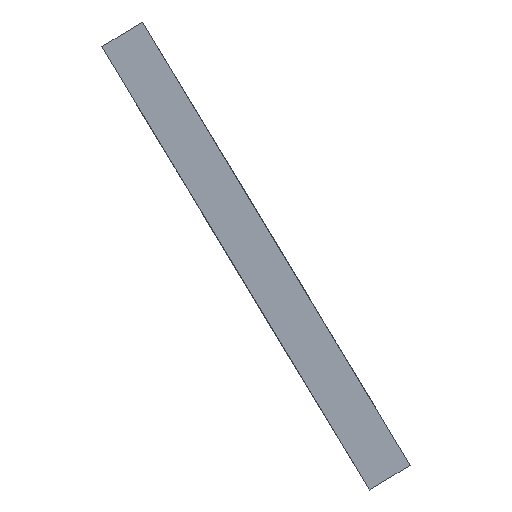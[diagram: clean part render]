
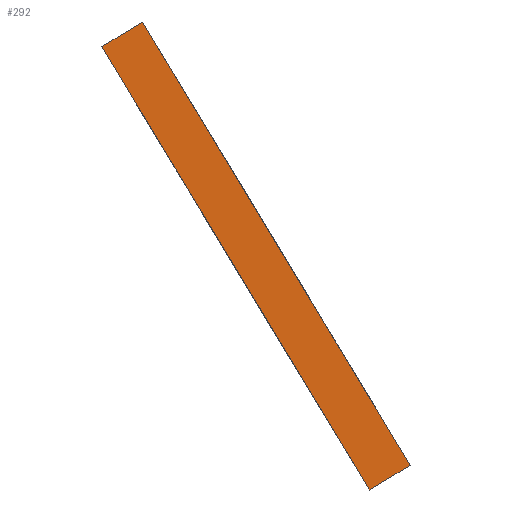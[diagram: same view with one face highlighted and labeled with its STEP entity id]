
A CAD part, left-side view. The second image highlights one B-rep face of the part: STEP entity #292.
In plain terms, the highlighted planar face has unit normal (-1, 0, 0).
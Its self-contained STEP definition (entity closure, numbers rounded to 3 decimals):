
#21 = EDGE_CURVE('',#22,#24,#26,.T.);
#22 = VERTEX_POINT('',#23);
#23 = CARTESIAN_POINT('',(-86.,-1000.505,1816.552));
#24 = VERTEX_POINT('',#25);
#25 = CARTESIAN_POINT('',(-86.,-1067.698,1705.264));
#26 = SURFACE_CURVE('',#27,(#31,#43),.PCURVE_S1.);
#27 = LINE('',#28,#29);
#28 = CARTESIAN_POINT('',(-86.,-1000.505,1816.552));
#29 = VECTOR('',#30,1.);
#30 = DIRECTION('',(0.,-0.517,-0.856));
#31 = PCURVE('',#32,#37);
#32 = PLANE('',#33);
#33 = AXIS2_PLACEMENT_3D('',#34,#35,#36);
#34 = CARTESIAN_POINT('',(-86.,-1000.505,1816.552));
#35 = DIRECTION('',(0.,-0.856,0.517));
#36 = DIRECTION('',(1.,0.,0.));
#37 = DEFINITIONAL_REPRESENTATION('',(#38),#42);
#38 = LINE('',#39,#40);
#39 = CARTESIAN_POINT('',(0.,0.));
#40 = VECTOR('',#41,1.);
#41 = DIRECTION('',(0.,-1.));
#42 = ( GEOMETRIC_REPRESENTATION_CONTEXT(2) 
PARAMETRIC_REPRESENTATION_CONTEXT() REPRESENTATION_CONTEXT('2D SPACE',''
  ) );
#43 = PCURVE('',#44,#49);
#44 = PLANE('',#45);
#45 = AXIS2_PLACEMENT_3D('',#46,#47,#48);
#46 = CARTESIAN_POINT('',(-86.,-1010.778,1822.754));
#47 = DIRECTION('',(1.,0.,0.));
#48 = DIRECTION('',(0.,0.856,-0.517));
#49 = DEFINITIONAL_REPRESENTATION('',(#50),#54);
#50 = LINE('',#51,#52);
#51 = CARTESIAN_POINT('',(12.,0.));
#52 = VECTOR('',#53,1.);
#53 = DIRECTION('',(0.,-1.));
#54 = ( GEOMETRIC_REPRESENTATION_CONTEXT(2) 
PARAMETRIC_REPRESENTATION_CONTEXT() REPRESENTATION_CONTEXT('2D SPACE',''
  ) );
#72 = PLANE('',#73);
#73 = AXIS2_PLACEMENT_3D('',#74,#75,#76);
#74 = CARTESIAN_POINT('',(0.,-1072.834,
    1708.365));
#75 = DIRECTION('',(-0.,-0.517,-0.856));
#76 = DIRECTION('',(0.,-0.856,0.517));
#126 = PLANE('',#127);
#127 = AXIS2_PLACEMENT_3D('',#128,#129,#130);
#128 = CARTESIAN_POINT('',(0.,-1005.641,
    1819.653));
#129 = DIRECTION('',(-0.,-0.517,-0.856));
#130 = DIRECTION('',(0.,-0.856,0.517));
#292 = ADVANCED_FACE('',(#293),#44,.F.);
#293 = FACE_BOUND('',#294,.F.);
#294 = EDGE_LOOP('',(#295,#325,#346,#347));
#295 = ORIENTED_EDGE('',*,*,#296,.T.);
#296 = EDGE_CURVE('',#297,#299,#301,.T.);
#297 = VERTEX_POINT('',#298);
#298 = CARTESIAN_POINT('',(-86.,-1010.778,1822.754)
  );
#299 = VERTEX_POINT('',#300);
#300 = CARTESIAN_POINT('',(-86.,-1077.971,1711.466)
  );
#301 = SURFACE_CURVE('',#302,(#306,#313),.PCURVE_S1.);
#302 = LINE('',#303,#304);
#303 = CARTESIAN_POINT('',(-86.,-1010.778,1822.754)
  );
#304 = VECTOR('',#305,1.);
#305 = DIRECTION('',(0.,-0.517,-0.856));
#306 = PCURVE('',#44,#307);
#307 = DEFINITIONAL_REPRESENTATION('',(#308),#312);
#308 = LINE('',#309,#310);
#309 = CARTESIAN_POINT('',(0.,0.));
#310 = VECTOR('',#311,1.);
#311 = DIRECTION('',(0.,-1.));
#312 = ( GEOMETRIC_REPRESENTATION_CONTEXT(2) 
PARAMETRIC_REPRESENTATION_CONTEXT() REPRESENTATION_CONTEXT('2D SPACE',''
  ) );
#313 = PCURVE('',#314,#319);
#314 = PLANE('',#315);
#315 = AXIS2_PLACEMENT_3D('',#316,#317,#318);
#316 = CARTESIAN_POINT('',(86.,-1010.778,1822.754));
#317 = DIRECTION('',(0.,0.856,-0.517));
#318 = DIRECTION('',(-1.,0.,0.));
#319 = DEFINITIONAL_REPRESENTATION('',(#320),#324);
#320 = LINE('',#321,#322);
#321 = CARTESIAN_POINT('',(172.,0.));
#322 = VECTOR('',#323,1.);
#323 = DIRECTION('',(-0.,-1.));
#324 = ( GEOMETRIC_REPRESENTATION_CONTEXT(2) 
PARAMETRIC_REPRESENTATION_CONTEXT() REPRESENTATION_CONTEXT('2D SPACE',''
  ) );
#325 = ORIENTED_EDGE('',*,*,#326,.T.);
#326 = EDGE_CURVE('',#299,#24,#327,.T.);
#327 = SURFACE_CURVE('',#328,(#332,#339),.PCURVE_S1.);
#328 = LINE('',#329,#330);
#329 = CARTESIAN_POINT('',(-86.,-1077.971,1711.466)
  );
#330 = VECTOR('',#331,1.);
#331 = DIRECTION('',(0.,0.856,-0.517));
#332 = PCURVE('',#44,#333);
#333 = DEFINITIONAL_REPRESENTATION('',(#334),#338);
#334 = LINE('',#335,#336);
#335 = CARTESIAN_POINT('',(0.,-130.));
#336 = VECTOR('',#337,1.);
#337 = DIRECTION('',(1.,0.));
#338 = ( GEOMETRIC_REPRESENTATION_CONTEXT(2) 
PARAMETRIC_REPRESENTATION_CONTEXT() REPRESENTATION_CONTEXT('2D SPACE',''
  ) );
#339 = PCURVE('',#72,#340);
#340 = DEFINITIONAL_REPRESENTATION('',(#341),#345);
#341 = LINE('',#342,#343);
#342 = CARTESIAN_POINT('',(6.,86.));
#343 = VECTOR('',#344,1.);
#344 = DIRECTION('',(-1.,0.));
#345 = ( GEOMETRIC_REPRESENTATION_CONTEXT(2) 
PARAMETRIC_REPRESENTATION_CONTEXT() REPRESENTATION_CONTEXT('2D SPACE',''
  ) );
#346 = ORIENTED_EDGE('',*,*,#21,.F.);
#347 = ORIENTED_EDGE('',*,*,#348,.F.);
#348 = EDGE_CURVE('',#297,#22,#349,.T.);
#349 = SURFACE_CURVE('',#350,(#354,#361),.PCURVE_S1.);
#350 = LINE('',#351,#352);
#351 = CARTESIAN_POINT('',(-86.,-1010.778,1822.754)
  );
#352 = VECTOR('',#353,1.);
#353 = DIRECTION('',(0.,0.856,-0.517));
#354 = PCURVE('',#44,#355);
#355 = DEFINITIONAL_REPRESENTATION('',(#356),#360);
#356 = LINE('',#357,#358);
#357 = CARTESIAN_POINT('',(0.,0.));
#358 = VECTOR('',#359,1.);
#359 = DIRECTION('',(1.,0.));
#360 = ( GEOMETRIC_REPRESENTATION_CONTEXT(2) 
PARAMETRIC_REPRESENTATION_CONTEXT() REPRESENTATION_CONTEXT('2D SPACE',''
  ) );
#361 = PCURVE('',#126,#362);
#362 = DEFINITIONAL_REPRESENTATION('',(#363),#367);
#363 = LINE('',#364,#365);
#364 = CARTESIAN_POINT('',(6.,86.));
#365 = VECTOR('',#366,1.);
#366 = DIRECTION('',(-1.,0.));
#367 = ( GEOMETRIC_REPRESENTATION_CONTEXT(2) 
PARAMETRIC_REPRESENTATION_CONTEXT() REPRESENTATION_CONTEXT('2D SPACE',''
  ) );
